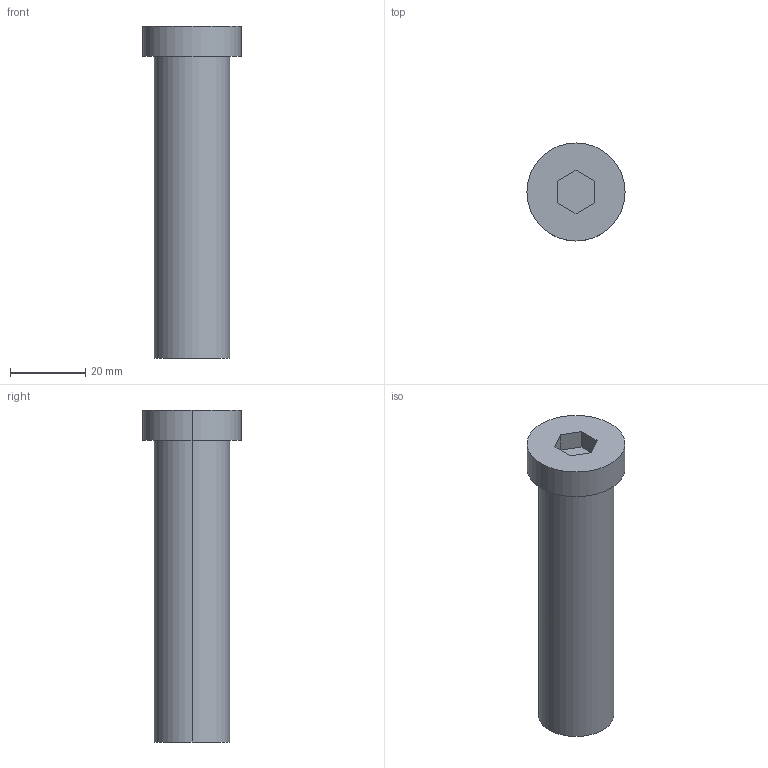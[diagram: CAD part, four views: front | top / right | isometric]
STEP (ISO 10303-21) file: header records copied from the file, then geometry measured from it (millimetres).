
FILE_DESCRIPTION (( 'STEP AP214' ), '1' );
FILE_NAME ('BruyRubio_TGH__20_x_80_-_M-14.STEP', '2019-12-22T23:39:19', ( '' ), ( '' ), 'SwSTEP 2.0', 'SolidWorks 2017', '' );
FILE_SCHEMA (( 'AUTOMOTIVE_DESIGN' ));
Length unit declared in the file: millimetre
Products named in the file (1): BruyRubio_TGH__20_x_80_-_M-14
Bounding box: 26 x 26 x 88 mm (x, y, z)
Volume: 25454.1 mm3; surface area: 10287.1 mm2
Topology: 2 solids, 2 shells, 27 faces, 58 edges, 37 vertices
Faces by surface type: plane 13, cylinder 12, cone 2
Entity records: 1070 total; most frequent: DIRECTION 136, CARTESIAN_POINT 121, ORIENTED_EDGE 112, EDGE_CURVE 56, AXIS2_PLACEMENT_3D 52, VERTEX_POINT 37, EDGE_LOOP 33, VECTOR 32
